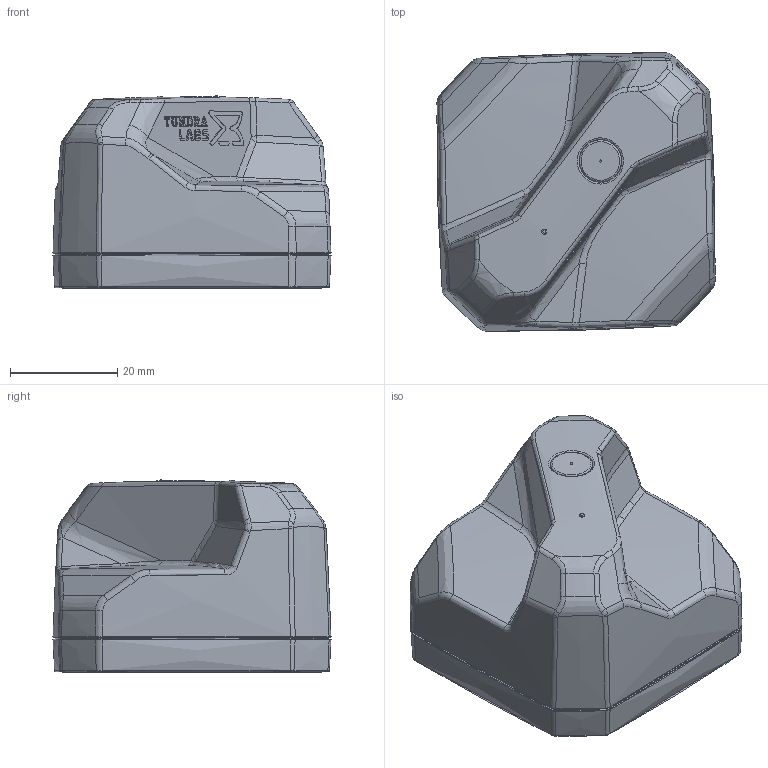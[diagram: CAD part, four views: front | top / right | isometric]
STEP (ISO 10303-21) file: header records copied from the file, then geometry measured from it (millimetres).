
FILE_DESCRIPTION(/* description */ (''),/* implementation_level */ '2;1');
FILE_NAME(/* name */ 'D:/OneDrive/WorkInProgress/TundraTracker/TundraTracker_DeveloperModel v17.step',/* time_stamp */ '2021-12-31T10:15:37-06:00',/* author */ (''),/* organization */ (''),/* preprocessor_version */ 'ST-DEVELOPER v18.1',/* originating_system */ 'Autodesk Translation Framework v10.10.0.1391',/* authorisation */ '');
FILE_SCHEMA (('AUTOMOTIVE_DESIGN { 1 0 10303 214 3 1 1 }'));
Length unit declared in the file: millimetre
Products named in the file (5): TundraTracker_DeveloperModel; UNC 1/4-20 Threaded Base; PH0 M1.6 Screw; Rubber Sticker; TrackerBody
Assembly tree (4 placements, depth 2):
  TundraTracker_DeveloperModel
    UNC 1/4-20 Threaded Base
    PH0 M1.6 Screw
    Rubber Sticker
    TrackerBody
Bounding box: 51.75 x 51.74 x 35.81 mm (x, y, z)
Volume: 49851.7 mm3; surface area: 22293.1 mm2
Topology: 4 solids, 6 shells, 1117 faces, 2900 edges, 1838 vertices
Faces by surface type: bspline 571, plane 253, cylinder 137, cone 77, torus 68, sphere 11
Full cylindrical faces by diameter (mm): 0.5 x1, 1 x1, 1.145 x33, 1.6 x33, 2 x2, 3.2 x1, 5.116 x1, 10.407 x1
Entity records: 90830 total; most frequent: CARTESIAN_POINT 67596, ORIENTED_EDGE 5788, DIRECTION 3414, EDGE_CURVE 2894, VERTEX_POINT 1838, AXIS2_PLACEMENT_3D 1272, B_SPLINE_CURVE_WITH_KNOTS 1185, EDGE_LOOP 1176
